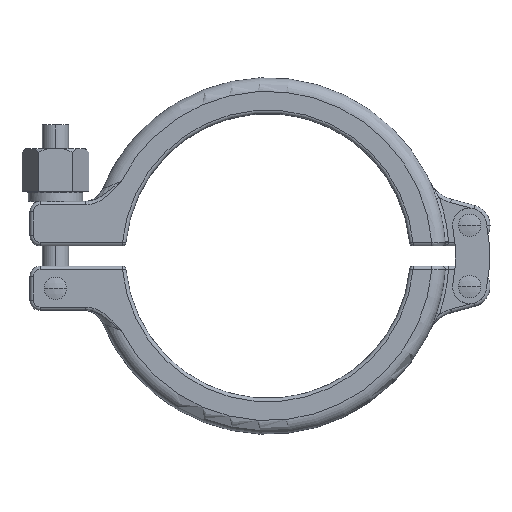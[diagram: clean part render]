
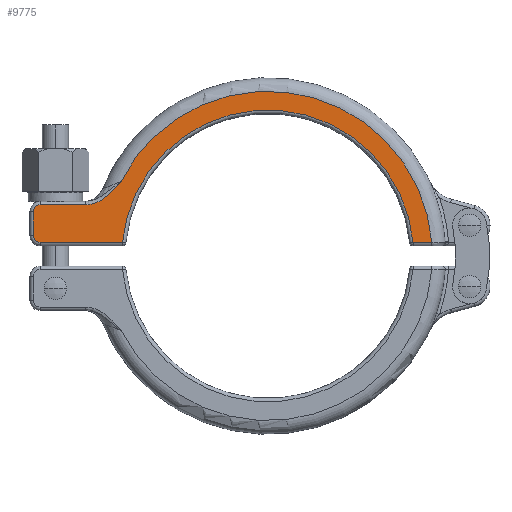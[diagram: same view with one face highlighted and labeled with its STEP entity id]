
A CAD part, top view. The second image highlights one B-rep face of the part: STEP entity #9775.
In plain terms, the highlighted planar face has unit normal (0, 0, 1).
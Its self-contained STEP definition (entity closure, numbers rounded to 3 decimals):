
#45 = AXIS2_PLACEMENT_3D ( 'NONE', #3445, #440, #8734 ) ;
#120 = ORIENTED_EDGE ( 'NONE', *, *, #5730, .T. ) ;
#236 = VERTEX_POINT ( 'NONE', #2146 ) ;
#317 = ORIENTED_EDGE ( 'NONE', *, *, #3929, .T. ) ;
#330 = VERTEX_POINT ( 'NONE', #1639 ) ;
#440 = DIRECTION ( 'NONE',  ( 0., 0., 1. ) ) ;
#479 = AXIS2_PLACEMENT_3D ( 'NONE', #6873, #3756, #11029 ) ;
#496 = DIRECTION ( 'NONE',  ( 0., -1., 0. ) ) ;
#533 = CARTESIAN_POINT ( 'NONE',  ( -43.055, 22., 8.5 ) ) ;
#559 = CARTESIAN_POINT ( 'NONE',  ( -46.733, 18.009, 8.5 ) ) ;
#617 = FACE_OUTER_BOUND ( 'NONE', #4285, .T. ) ;
#861 = ORIENTED_EDGE ( 'NONE', *, *, #12235, .T. ) ;
#872 = CARTESIAN_POINT ( 'NONE',  ( 0., 0., 8.5 ) ) ;
#1191 = LINE ( 'NONE', #11538, #10745 ) ;
#1628 = DIRECTION ( 'NONE',  ( 0., 0., 1. ) ) ;
#1639 = CARTESIAN_POINT ( 'NONE',  ( -42.663, 4., 8.5 ) ) ;
#1728 = CARTESIAN_POINT ( 'NONE',  ( -48.453, 16.663, 8.5 ) ) ;
#2011 = DIRECTION ( 'NONE',  ( -1., 0., 0. ) ) ;
#2146 = CARTESIAN_POINT ( 'NONE',  ( -53.546, 15., 8.5 ) ) ;
#2295 = DIRECTION ( 'NONE',  ( 0., 0., 1. ) ) ;
#2351 = ORIENTED_EDGE ( 'NONE', *, *, #8652, .T. ) ;
#2437 = EDGE_CURVE ( 'NONE', #5192, #7662, #13362, .T. ) ;
#2826 = VECTOR ( 'NONE', #7146, 1000. ) ;
#3008 = AXIS2_PLACEMENT_3D ( 'NONE', #872, #4158, #9251 ) ;
#3036 = LINE ( 'NONE', #8123, #8396 ) ;
#3104 = AXIS2_PLACEMENT_3D ( 'NONE', #7948, #1628, #4757 ) ;
#3358 = CARTESIAN_POINT ( 'NONE',  ( -66.85, 4., 8.5 ) ) ;
#3445 = CARTESIAN_POINT ( 'NONE',  ( -66.85, 13., 8.5 ) ) ;
#3756 = DIRECTION ( 'NONE',  ( 0., 0., 1. ) ) ;
#3806 = AXIS2_PLACEMENT_3D ( 'NONE', #6430, #2295, #12636 ) ;
#3929 = EDGE_CURVE ( 'NONE', #7294, #330, #1191, .T. ) ;
#4158 = DIRECTION ( 'NONE',  ( 0., 0., -1. ) ) ;
#4272 = DIRECTION ( 'NONE',  ( 1., 0., 0. ) ) ;
#4285 = EDGE_LOOP ( 'NONE', ( #12677, #11617, #4924, #8406, #2351, #861, #317, #120, #8262 ) ) ;
#4757 = DIRECTION ( 'NONE',  ( 1., 0., 0. ) ) ;
#4798 = VECTOR ( 'NONE', #496, 1000. ) ;
#4850 = CARTESIAN_POINT ( 'NONE',  ( -68.85, 6., 8.5 ) ) ;
#4915 = PLANE ( 'NONE',  #479 ) ;
#4924 = ORIENTED_EDGE ( 'NONE', *, *, #5334, .T. ) ;
#5192 = VERTEX_POINT ( 'NONE', #12014 ) ;
#5256 = CIRCLE ( 'NONE', #45, 2. ) ;
#5334 = EDGE_CURVE ( 'NONE', #236, #6668, #3036, .T. ) ;
#5454 = CARTESIAN_POINT ( 'NONE',  ( -66.85, 15., 8.5 ) ) ;
#5730 = EDGE_CURVE ( 'NONE', #330, #5192, #11037, .T. ) ;
#5866 = CARTESIAN_POINT ( 'NONE',  ( -49.858, 15.85, 8.5 ) ) ;
#6196 = CARTESIAN_POINT ( 'NONE',  ( -51.397, 15.288, 8.5 ) ) ;
#6430 = CARTESIAN_POINT ( 'NONE',  ( -66.85, 6., 8.5 ) ) ;
#6487 = CARTESIAN_POINT ( 'NONE',  ( -68.85, 6., 8.5 ) ) ;
#6519 = VERTEX_POINT ( 'NONE', #6752 ) ;
#6522 = EDGE_CURVE ( 'NONE', #10739, #236, #10494, .T. ) ;
#6668 = VERTEX_POINT ( 'NONE', #5454 ) ;
#6752 = CARTESIAN_POINT ( 'NONE',  ( -68.85, 13., 8.5 ) ) ;
#6873 = CARTESIAN_POINT ( 'NONE',  ( 0., 0., 8.5 ) ) ;
#6953 = CARTESIAN_POINT ( 'NONE',  ( -43.779, 21.192, 8.5 ) ) ;
#7146 = DIRECTION ( 'NONE',  ( 1., 0., 0. ) ) ;
#7294 = VERTEX_POINT ( 'NONE', #3358 ) ;
#7662 = VERTEX_POINT ( 'NONE', #9123 ) ;
#7838 = CARTESIAN_POINT ( 'NONE',  ( -48.01, 16.98, 8.5 ) ) ;
#7948 = CARTESIAN_POINT ( 'NONE',  ( 0., 0., 8.5 ) ) ;
#8123 = CARTESIAN_POINT ( 'NONE',  ( -66.85, 15., 8.5 ) ) ;
#8262 = ORIENTED_EDGE ( 'NONE', *, *, #2437, .T. ) ;
#8396 = VECTOR ( 'NONE', #2011, 1000. ) ;
#8406 = ORIENTED_EDGE ( 'NONE', *, *, #9147, .T. ) ;
#8652 = EDGE_CURVE ( 'NONE', #6519, #11749, #11665, .T. ) ;
#8734 = DIRECTION ( 'NONE',  ( 1., 0., 0. ) ) ;
#9066 = CARTESIAN_POINT ( 'NONE',  ( -49.377, 16.098, 8.5 ) ) ;
#9123 = CARTESIAN_POINT ( 'NONE',  ( 48.184, 4., 8.5 ) ) ;
#9147 = EDGE_CURVE ( 'NONE', #6668, #6519, #5256, .T. ) ;
#9251 = DIRECTION ( 'NONE',  ( 1., 0., 0. ) ) ;
#9394 = CIRCLE ( 'NONE', #3104, 48.35 ) ;
#9775 = ADVANCED_FACE ( 'NONE', ( #617 ), #4915, .T. ) ;
#9985 = EDGE_CURVE ( 'NONE', #7662, #10739, #9394, .T. ) ;
#10350 = CARTESIAN_POINT ( 'NONE',  ( -52.456, 15.058, 8.5 ) ) ;
#10494 = B_SPLINE_CURVE_WITH_KNOTS ( 'NONE', 3,
 ( #11035, #6953, #11112, #12001, #559, #7838, #1728, #9066, #5866, #13232, #10908, #6196, #13433, #10350, #11376, #12472 ),
 .UNSPECIFIED., .F., .F.,
 ( 4, 2, 2, 2, 2, 2, 2, 4 ),
 ( 0., 0.003, 0.006, 0.008, 0.01, 0.011, 0.011, 0.013 ),
 .UNSPECIFIED. ) ;
#10739 = VERTEX_POINT ( 'NONE', #533 ) ;
#10745 = VECTOR ( 'NONE', #4272, 1000. ) ;
#10908 = CARTESIAN_POINT ( 'NONE',  ( -50.876, 15.448, 8.5 ) ) ;
#11029 = DIRECTION ( 'NONE',  ( 1., 0., 0. ) ) ;
#11035 = CARTESIAN_POINT ( 'NONE',  ( -43.055, 22., 8.5 ) ) ;
#11037 = CIRCLE ( 'NONE', #3008, 42.85 ) ;
#11112 = CARTESIAN_POINT ( 'NONE',  ( -44.492, 20.37, 8.5 ) ) ;
#11376 = CARTESIAN_POINT ( 'NONE',  ( -52.996, 15., 8.5 ) ) ;
#11538 = CARTESIAN_POINT ( 'NONE',  ( -41.742, 4., 8.5 ) ) ;
#11617 = ORIENTED_EDGE ( 'NONE', *, *, #6522, .T. ) ;
#11665 = LINE ( 'NONE', #6487, #4798 ) ;
#11749 = VERTEX_POINT ( 'NONE', #4850 ) ;
#11827 = CIRCLE ( 'NONE', #3806, 2. ) ;
#12001 = CARTESIAN_POINT ( 'NONE',  ( -45.968, 18.779, 8.5 ) ) ;
#12014 = CARTESIAN_POINT ( 'NONE',  ( 42.663, 4., 8.5 ) ) ;
#12235 = EDGE_CURVE ( 'NONE', #11749, #7294, #11827, .T. ) ;
#12332 = CARTESIAN_POINT ( 'NONE',  ( 48.257, 4., 8.5 ) ) ;
#12472 = CARTESIAN_POINT ( 'NONE',  ( -53.546, 15., 8.5 ) ) ;
#12636 = DIRECTION ( 'NONE',  ( 1., 0., 0. ) ) ;
#12677 = ORIENTED_EDGE ( 'NONE', *, *, #9985, .T. ) ;
#13232 = CARTESIAN_POINT ( 'NONE',  ( -50.616, 15.541, 8.5 ) ) ;
#13362 = LINE ( 'NONE', #12332, #2826 ) ;
#13433 = CARTESIAN_POINT ( 'NONE',  ( -51.66, 15.221, 8.5 ) ) ;
